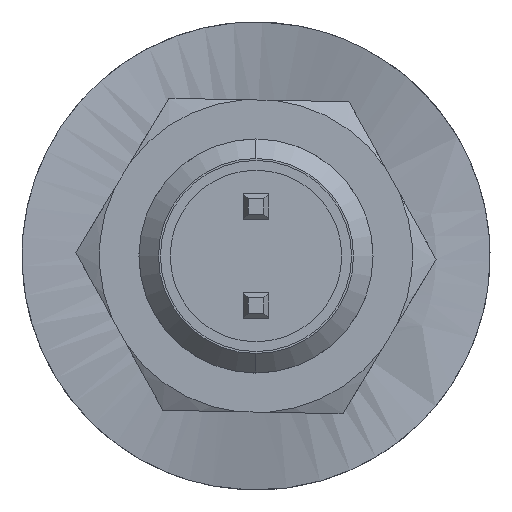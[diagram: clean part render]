
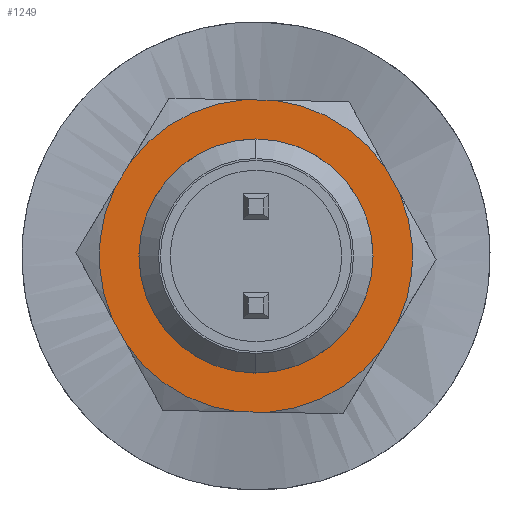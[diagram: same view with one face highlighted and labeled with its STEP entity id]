
A CAD part, left-side view. The second image highlights one B-rep face of the part: STEP entity #1249.
In plain terms, the highlighted planar face has unit normal (-1, 0, 0) as drawn and (0, 0, -1) by its records, which use the part's own axes.
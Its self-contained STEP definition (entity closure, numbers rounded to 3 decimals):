
#36 = EDGE_CURVE ( 'NONE', #919, #2303, #2092, .T. ) ;
#49 = AXIS2_PLACEMENT_3D ( 'NONE', #1804, #1506, #897 ) ;
#51 = DIRECTION ( 'NONE',  ( -1., 0., 0. ) ) ;
#93 = CARTESIAN_POINT ( 'NONE',  ( -1.664, 3.658, 0. ) ) ;
#169 = VERTEX_POINT ( 'NONE', #3913 ) ;
#240 = AXIS2_PLACEMENT_3D ( 'NONE', #3541, #3839, #1615 ) ;
#246 = LINE ( 'NONE', #641, #1672 ) ;
#318 = EDGE_CURVE ( 'NONE', #3129, #1082, #537, .T. ) ;
#329 = CARTESIAN_POINT ( 'NONE',  ( -3., 0., 0. ) ) ;
#364 = DIRECTION ( 'NONE',  ( 0.866, 0.5, 0. ) ) ;
#420 = CARTESIAN_POINT ( 'NONE',  ( 0., 4.619, 0. ) ) ;
#537 = LINE ( 'NONE', #2051, #3744 ) ;
#545 = EDGE_LOOP ( 'NONE', ( #3463, #3428 ) ) ;
#567 = VERTEX_POINT ( 'NONE', #613 ) ;
#571 = EDGE_CURVE ( 'NONE', #3129, #169, #2026, .T. ) ;
#585 = CARTESIAN_POINT ( 'NONE',  ( -1.664, -3.658, 0. ) ) ;
#613 = CARTESIAN_POINT ( 'NONE',  ( 4., -0.388, 0. ) ) ;
#641 = CARTESIAN_POINT ( 'NONE',  ( 0., -4.619, 0. ) ) ;
#662 = CIRCLE ( 'NONE', #3929, 4.019 ) ;
#817 = CIRCLE ( 'NONE', #2289, 3. ) ;
#876 = VERTEX_POINT ( 'NONE', #1329 ) ;
#882 = DIRECTION ( 'NONE',  ( 0., 0., -1. ) ) ;
#894 = AXIS2_PLACEMENT_3D ( 'NONE', #2811, #2193, #51 ) ;
#897 = DIRECTION ( 'NONE',  ( -1., 0., 0. ) ) ;
#919 = VERTEX_POINT ( 'NONE', #1947 ) ;
#948 = CARTESIAN_POINT ( 'NONE',  ( -2.336, 3.27, 0. ) ) ;
#961 = DIRECTION ( 'NONE',  ( 0., 0., -1. ) ) ;
#996 = AXIS2_PLACEMENT_3D ( 'NONE', #1540, #882, #3068 ) ;
#1082 = VERTEX_POINT ( 'NONE', #3908 ) ;
#1083 = VERTEX_POINT ( 'NONE', #3292 ) ;
#1134 = AXIS2_PLACEMENT_3D ( 'NONE', #420, #2585, #1906 ) ;
#1140 = EDGE_CURVE ( 'NONE', #1083, #1924, #246, .T. ) ;
#1171 = ORIENTED_EDGE ( 'NONE', *, *, #3087, .F. ) ;
#1185 = EDGE_CURVE ( 'NONE', #567, #1924, #662, .T. ) ;
#1192 = AXIS2_PLACEMENT_3D ( 'NONE', #3048, #961, #1608 ) ;
#1221 = VERTEX_POINT ( 'NONE', #329 ) ;
#1222 = DIRECTION ( 'NONE',  ( 1., 0., 0. ) ) ;
#1249 = ADVANCED_FACE ( 'NONE', ( #3254, #2395 ), #3814, .F. ) ;
#1271 = DIRECTION ( 'NONE',  ( 0., -1., 0. ) ) ;
#1272 = ORIENTED_EDGE ( 'NONE', *, *, #571, .T. ) ;
#1287 = CIRCLE ( 'NONE', #996, 4.019 ) ;
#1329 = CARTESIAN_POINT ( 'NONE',  ( -4., -0.388, 0. ) ) ;
#1504 = DIRECTION ( 'NONE',  ( 0., 0., 1. ) ) ;
#1506 = DIRECTION ( 'NONE',  ( 0., 0., -1. ) ) ;
#1511 = CARTESIAN_POINT ( 'NONE',  ( -4., -2.309, 0. ) ) ;
#1540 = CARTESIAN_POINT ( 'NONE',  ( 0., 0., 0. ) ) ;
#1561 = CARTESIAN_POINT ( 'NONE',  ( 4., -2.309, 0. ) ) ;
#1596 = ORIENTED_EDGE ( 'NONE', *, *, #4019, .F. ) ;
#1608 = DIRECTION ( 'NONE',  ( -1., 0., 0. ) ) ;
#1615 = DIRECTION ( 'NONE',  ( -1., 0., 0. ) ) ;
#1634 = EDGE_CURVE ( 'NONE', #1730, #1082, #1287, .T. ) ;
#1639 = EDGE_CURVE ( 'NONE', #1083, #2882, #2083, .T. ) ;
#1650 = CARTESIAN_POINT ( 'NONE',  ( 2.336, -3.27, 0. ) ) ;
#1660 = CARTESIAN_POINT ( 'NONE',  ( 3., 0., 0. ) ) ;
#1672 = VECTOR ( 'NONE', #364, 1000. ) ;
#1673 = AXIS2_PLACEMENT_3D ( 'NONE', #2739, #1504, #1222 ) ;
#1730 = VERTEX_POINT ( 'NONE', #93 ) ;
#1736 = ORIENTED_EDGE ( 'NONE', *, *, #36, .T. ) ;
#1739 = ORIENTED_EDGE ( 'NONE', *, *, #1639, .T. ) ;
#1804 = CARTESIAN_POINT ( 'NONE',  ( 0., 0., 0. ) ) ;
#1814 = EDGE_LOOP ( 'NONE', ( #3765, #2501, #3616, #1739, #3008, #2510, #1171, #1736, #1596, #1830, #3422, #1272 ) ) ;
#1827 = DIRECTION ( 'NONE',  ( 1., 0., 0. ) ) ;
#1830 = ORIENTED_EDGE ( 'NONE', *, *, #1634, .T. ) ;
#1842 = CARTESIAN_POINT ( 'NONE',  ( 2.336, 3.27, 0. ) ) ;
#1855 = DIRECTION ( 'NONE',  ( 0., 1., 0. ) ) ;
#1906 = DIRECTION ( 'NONE',  ( 1., 0., 0. ) ) ;
#1907 = LINE ( 'NONE', #3942, #3666 ) ;
#1924 = VERTEX_POINT ( 'NONE', #1650 ) ;
#1947 = CARTESIAN_POINT ( 'NONE',  ( -4., 0.388, 0. ) ) ;
#2026 = CIRCLE ( 'NONE', #894, 4.019 ) ;
#2051 = CARTESIAN_POINT ( 'NONE',  ( 4., 2.309, 0. ) ) ;
#2062 = VERTEX_POINT ( 'NONE', #1660 ) ;
#2083 = CIRCLE ( 'NONE', #49, 4.019 ) ;
#2092 = CIRCLE ( 'NONE', #240, 4.019 ) ;
#2112 = DIRECTION ( 'NONE',  ( 0.866, -0.5, 0. ) ) ;
#2180 = DIRECTION ( 'NONE',  ( -1., 0., 0. ) ) ;
#2193 = DIRECTION ( 'NONE',  ( 0., 0., -1. ) ) ;
#2289 = AXIS2_PLACEMENT_3D ( 'NONE', #3697, #2762, #1827 ) ;
#2303 = VERTEX_POINT ( 'NONE', #948 ) ;
#2355 = CIRCLE ( 'NONE', #1673, 3. ) ;
#2395 = FACE_BOUND ( 'NONE', #545, .T. ) ;
#2435 = CARTESIAN_POINT ( 'NONE',  ( -2.336, -3.27, 0. ) ) ;
#2447 = CARTESIAN_POINT ( 'NONE',  ( -4., 2.309, 0. ) ) ;
#2484 = DIRECTION ( 'NONE',  ( 0., 0., -1. ) ) ;
#2501 = ORIENTED_EDGE ( 'NONE', *, *, #1185, .T. ) ;
#2510 = ORIENTED_EDGE ( 'NONE', *, *, #3686, .T. ) ;
#2585 = DIRECTION ( 'NONE',  ( 0., 0., 1. ) ) ;
#2653 = EDGE_CURVE ( 'NONE', #567, #169, #3696, .T. ) ;
#2665 = LINE ( 'NONE', #2447, #3018 ) ;
#2739 = CARTESIAN_POINT ( 'NONE',  ( 0., 0., 0. ) ) ;
#2762 = DIRECTION ( 'NONE',  ( 0., 0., 1. ) ) ;
#2811 = CARTESIAN_POINT ( 'NONE',  ( 0., 0., 0. ) ) ;
#2882 = VERTEX_POINT ( 'NONE', #585 ) ;
#2949 = EDGE_CURVE ( 'NONE', #3612, #2882, #3957, .T. ) ;
#3008 = ORIENTED_EDGE ( 'NONE', *, *, #2949, .F. ) ;
#3018 = VECTOR ( 'NONE', #1271, 1000. ) ;
#3048 = CARTESIAN_POINT ( 'NONE',  ( 0., 0., 0. ) ) ;
#3068 = DIRECTION ( 'NONE',  ( -1., 0., 0. ) ) ;
#3087 = EDGE_CURVE ( 'NONE', #919, #876, #2665, .T. ) ;
#3114 = VECTOR ( 'NONE', #2112, 1000. ) ;
#3127 = CARTESIAN_POINT ( 'NONE',  ( 0., 0., 0. ) ) ;
#3129 = VERTEX_POINT ( 'NONE', #1842 ) ;
#3254 = FACE_OUTER_BOUND ( 'NONE', #1814, .T. ) ;
#3292 = CARTESIAN_POINT ( 'NONE',  ( 1.664, -3.658, 0. ) ) ;
#3422 = ORIENTED_EDGE ( 'NONE', *, *, #318, .F. ) ;
#3428 = ORIENTED_EDGE ( 'NONE', *, *, #3626, .T. ) ;
#3463 = ORIENTED_EDGE ( 'NONE', *, *, #3679, .T. ) ;
#3541 = CARTESIAN_POINT ( 'NONE',  ( 0., 0., 0. ) ) ;
#3612 = VERTEX_POINT ( 'NONE', #2435 ) ;
#3616 = ORIENTED_EDGE ( 'NONE', *, *, #1140, .F. ) ;
#3626 = EDGE_CURVE ( 'NONE', #2062, #1221, #817, .T. ) ;
#3666 = VECTOR ( 'NONE', #3694, 1000. ) ;
#3679 = EDGE_CURVE ( 'NONE', #1221, #2062, #2355, .T. ) ;
#3686 = EDGE_CURVE ( 'NONE', #3612, #876, #3949, .T. ) ;
#3694 = DIRECTION ( 'NONE',  ( -0.866, -0.5, 0. ) ) ;
#3696 = LINE ( 'NONE', #1561, #3930 ) ;
#3697 = CARTESIAN_POINT ( 'NONE',  ( 0., 0., 0. ) ) ;
#3744 = VECTOR ( 'NONE', #3970, 1000. ) ;
#3765 = ORIENTED_EDGE ( 'NONE', *, *, #2653, .F. ) ;
#3814 = PLANE ( 'NONE',  #1134 ) ;
#3839 = DIRECTION ( 'NONE',  ( 0., 0., -1. ) ) ;
#3908 = CARTESIAN_POINT ( 'NONE',  ( 1.664, 3.658, 0. ) ) ;
#3913 = CARTESIAN_POINT ( 'NONE',  ( 4., 0.388, 0. ) ) ;
#3929 = AXIS2_PLACEMENT_3D ( 'NONE', #3127, #2484, #2180 ) ;
#3930 = VECTOR ( 'NONE', #1855, 1000. ) ;
#3942 = CARTESIAN_POINT ( 'NONE',  ( 0., 4.619, 0. ) ) ;
#3949 = CIRCLE ( 'NONE', #1192, 4.019 ) ;
#3957 = LINE ( 'NONE', #1511, #3114 ) ;
#3970 = DIRECTION ( 'NONE',  ( -0.866, 0.5, 0. ) ) ;
#4019 = EDGE_CURVE ( 'NONE', #1730, #2303, #1907, .T. ) ;
